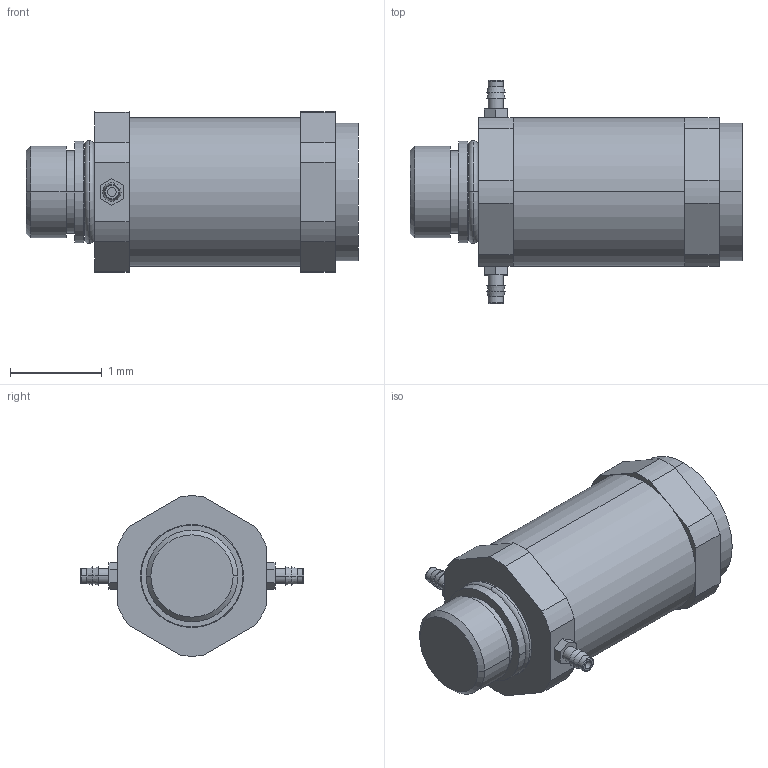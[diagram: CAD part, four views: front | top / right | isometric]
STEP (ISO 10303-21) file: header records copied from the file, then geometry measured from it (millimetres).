
FILE_DESCRIPTION((''),'2;1');
FILE_NAME('UGR4.stp','2017-11-07T11:31:08',(''),(''),'Mechanical Desktop 2011','Mechanical Desktop 2011',', , ');
FILE_SCHEMA(('CONFIG_CONTROL_DESIGN'));
Length unit declared in the file: millimetre
Products named in the file (1): Product
Bounding box: 3.62 x 2.44 x 1.75 mm (x, y, z)
Volume: 6.6 mm3; surface area: 36.5 mm2
Topology: 7 solids, 7 shells, 100 faces, 220 edges, 142 vertices
Faces by surface type: plane 46, cylinder 36, cone 10, torus 8
Entity records: 2869 total; most frequent: DIRECTION 524, CARTESIAN_POINT 463, ORIENTED_EDGE 440, EDGE_CURVE 220, AXIS2_PLACEMENT_3D 203, VERTEX_POINT 142, VECTOR 118, LINE 118
